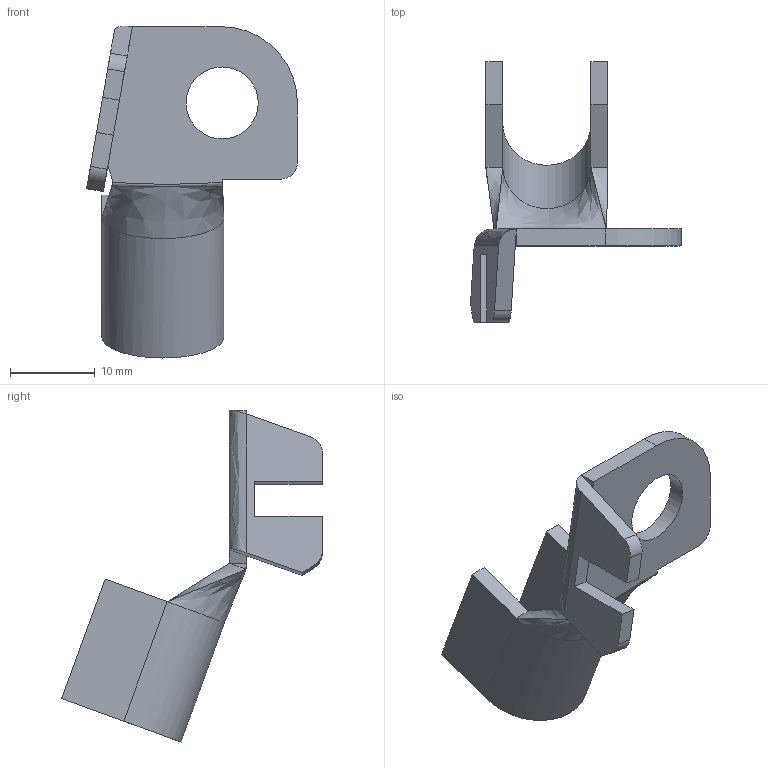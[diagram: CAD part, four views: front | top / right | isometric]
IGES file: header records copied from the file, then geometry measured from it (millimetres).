
Start section:  PTC IGES file: c-1544348-1-o-3d.igs
Global section: file name: c-1544348-1-o-3d.igs; native system: Creo Parametric by Parametric Technology Corporation; preprocessor: 2014090; author: workeradm; organization: Unknown; units: millimetre
Bounding box: 24.88 x 30.78 x 39.18 mm (x, y, z)
Surface area: 2595.3 mm2 (no closed solid volume)
Topology: 0 solids, 0 shells, 42 faces, 216 edges, 216 vertices
Faces by surface type: bspline 33, revolution 9
